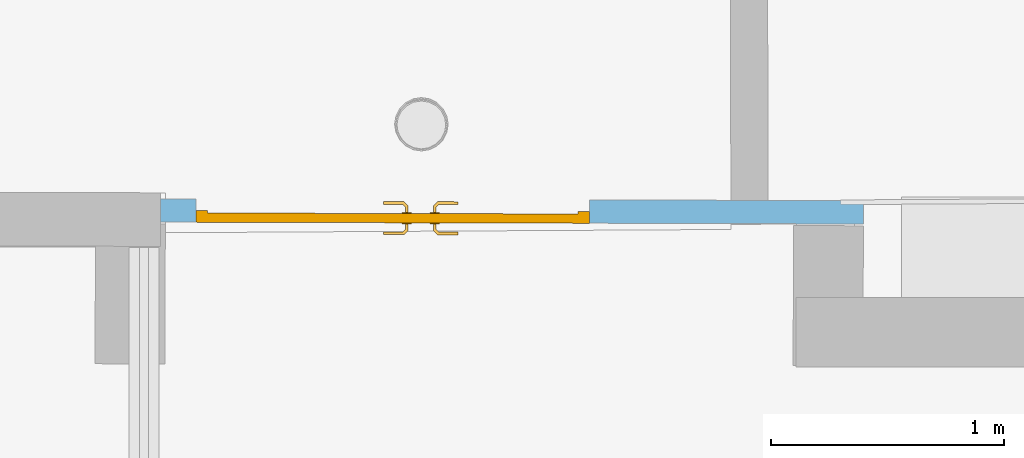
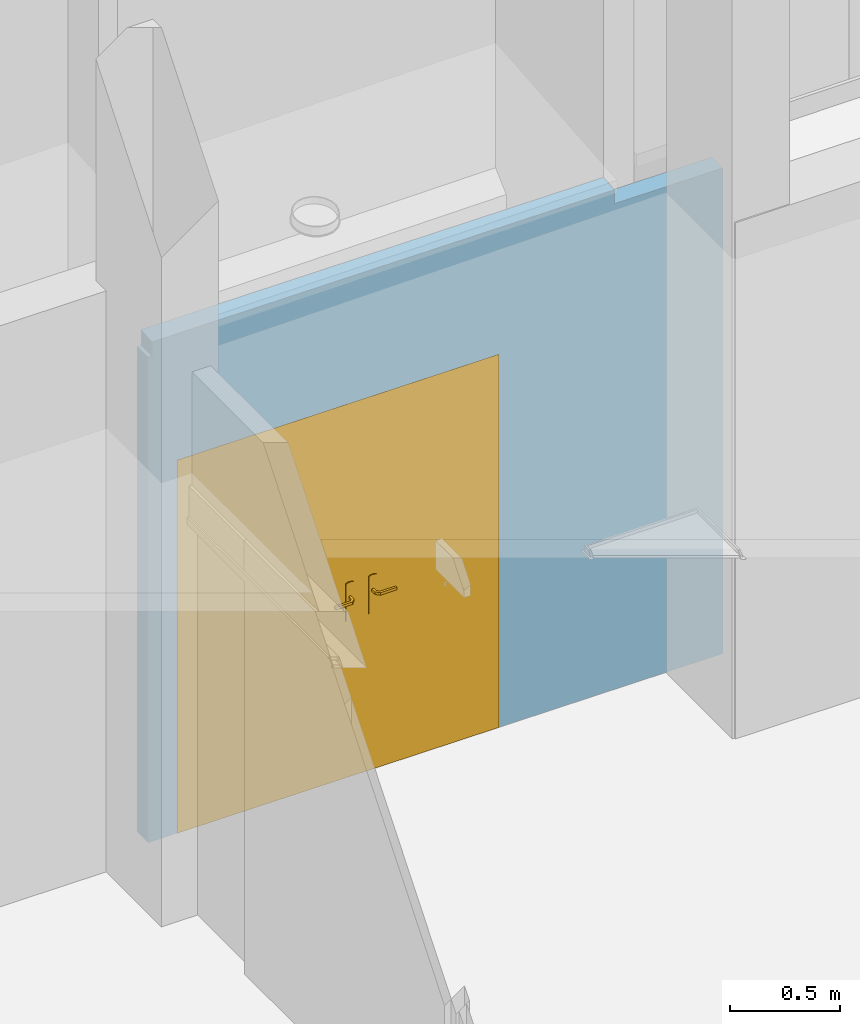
# One storey, part 37 of 128: 1 door, 1 opening, plus 1 element that does not belong to this part.
"""IFC2X3 building model written with IfcOpenShell, lengths in metres."""

from ifc_helpers import new_model, entity, si_unit, converted_unit, derived_unit, direction, frame, frame_2d, origin, place, context, subcontext, project, spatial, polyline, rectangle, extrude, clip, bounded_halfspace, faceted_brep, source, transform, mapped, material, layer, layer_set, layer_usage, type_object, type_shapes, element, fill, save


model = new_model("IFC2X3")

# Units and contexts
model_context = context("Model", 3, precision=1e-05, world=origin(), true_north=direction((6.123031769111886e-17, 1.0)))
body_context = subcontext(model_context, "Body", "Model", "MODEL_VIEW")
ifc_project = project(units=[si_unit("LENGTHUNIT", "METRE"), si_unit("AREAUNIT", "SQUARE_METRE"), converted_unit("PLANEANGLEUNIT", "DEGREE", entity("IfcPlaneAngleMeasure", 0.017453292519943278), si_unit("PLANEANGLEUNIT", "RADIAN"), dimensions=[0, 0, 0, 0, 0, 0, 0]), derived_unit("THERMALTRANSMITTANCEUNIT", [(si_unit("MASSUNIT", "GRAM", prefix="KILO"), 1), (si_unit("THERMODYNAMICTEMPERATUREUNIT", "KELVIN"), -1), (si_unit("TIMEUNIT", "SECOND"), -3)])], contexts=[model_context])

# Site, building, storey
site_placement = place(None, origin())
site = spatial("IfcSite", under=ifc_project, at=site_placement, Name="Default", CompositionType="ELEMENT")
building_placement = place(site_placement, origin())
building = spatial("IfcBuilding", under=site, at=building_placement, CompositionType="ELEMENT")
storey_placement = place(building_placement, origin())
storey = spatial("IfcBuildingStorey", under=building, at=storey_placement, Name="00_RDC CAF", CompositionType="ELEMENT", Elevation=2.4982504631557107e-13)

# Wall, opening, door
ifc_material_1 = material(Name="ARC - Cloison")
ifc_layer = layer(ifc_material_1, 0.1)
ifc_layer_set = layer_set([ifc_layer], Name="Mur de base:Cl_Platre_100mm")
ifc_layer_usage = layer_usage(ifc_layer_set, "AXIS2", "NEGATIVE", 0.05)
wall_type = type_object("IfcWallType", Name="Mur de base:Cl_Platre_100mm", PredefinedType="STANDARD", material=ifc_layer_set)
wall_placement = place(storey_placement, frame((12.877483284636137, 130.1637382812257, 0.0), z_axis=(0.0, 0.0, 1.0), x_axis=(0.9999964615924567, -0.0026602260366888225, 0.0)))
wall = element("IfcWallStandardCase", 1, at=wall_placement, inside=storey, type_object=wall_type, material=ifc_layer_usage, Name="Mur de base:Cl_Platre_100mm", ObjectType="Mur de base:Cl_Platre_100mm", context=body_context, shape_type="Clipping", body=[
    clip(clip(clip(clip(clip(extrude(rectangle(XDim=0.10000000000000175, YDim=3.017920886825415, at=frame_2d((1.5089604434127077, -9.46465128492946e-15), x_axis=(0.0, 1.0))), origin(), (0.0, 0.0, 1.0), 2.786642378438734), bounded_halfspace(frame((2.979851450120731, -0.05000000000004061, 2.700000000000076), z_axis=(0.0, 0.0, -1.0), x_axis=(-0.9999964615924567, -0.002660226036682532, 0.0)), True, frame((2.979851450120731, -0.05000000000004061, 2.700000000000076)), polyline([(0.0, 0.0), (0.03806943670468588, 0.0), (0.0380694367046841, 0.10000000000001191), (-0.0002660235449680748, 0.10000000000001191), (0.0, 0.0)]))), bounded_halfspace(frame((0.020280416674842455, -0.05000000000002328, 2.777642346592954), z_axis=(-0.00023845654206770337, 0.08963738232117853, -0.9959744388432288), x_axis=(0.002649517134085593, -0.9959709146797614, -0.0896376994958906)), True, frame((0.020280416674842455, -0.05000000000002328, 2.777642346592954)), polyline([(0.0, 0.0), (2.429058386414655, 0.0), (2.428530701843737, 0.10000000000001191), (-0.0002660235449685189, 0.0999999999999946), (0.0, 0.0)]))), bounded_halfspace(frame((2.979851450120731, -0.05000000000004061, 2.700000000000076), z_axis=(0.0, 0.0, -1.0), x_axis=(-0.9999964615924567, -0.002660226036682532, 0.0)), True, frame((2.979851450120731, -0.05000000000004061, 2.700000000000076)), polyline([(0.0, 0.0), (0.03806943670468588, 0.0), (0.0380694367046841, 0.10000000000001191), (-0.0002660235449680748, 0.10000000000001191), (0.0, 0.0)]))), bounded_halfspace(frame((2.449338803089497, -0.05000000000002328, 2.6999999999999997), z_axis=(0.0, 0.0, 1.0), x_axis=(0.0, 1.0, 0.0)), False, frame((2.449338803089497, -0.05000000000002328, 2.6999999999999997)), polyline([(0.0, 0.0), (0.5305126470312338, 0.0), (0.5302466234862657, 0.0999999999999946), (-0.0005276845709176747, 0.10000000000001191), (0.0, 0.0)]))), bounded_halfspace(frame((0.0, 0.04999999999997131, 2.7), z_axis=(0.0, 0.0, 1.0), x_axis=(0.0, 1.0, 0.0)), False, frame((0.0, 0.04999999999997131, 2.7)), polyline([(0.0, 0.0), (0.0, -0.0999999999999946), (0.02028041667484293, -0.0999999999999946), (0.020014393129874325, 0.0), (0.0, 0.0)]))),
])
opening_placement = place(wall_placement, frame((1.8424932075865, 0.050000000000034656, 0.0)))
opening = element("IfcOpeningElement", 2, at=opening_placement, cuts=wall, Name="P_Tunnel_Tierce:P_Int_Tierce_Pleine_1620x2040mm:1", ObjectType="Opening", context=body_context, shape_type="SweptSolid", body=[
    extrude(rectangle(XDim=2.0749999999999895, YDim=1.6899999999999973, at=frame_2d((1.0374999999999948, 0.845), x_axis=(1.0, 0.0))), frame((0.0, 0.0, 0.0), z_axis=(0.0, -1.0, 0.0), x_axis=(0.0, 0.0, 1.0)), (0.0, 0.0, 1.0), 0.1),
])
ifc_material_2 = material(Name="ARC - M.In - Blanc")
door_style = type_object("IfcDoorStyle", Name="P_Tunnel_Tierce:P_Int_Tierce_Pleine_1620x2040mm", ConstructionType="NOTDEFINED", OperationType="NOTDEFINED", ParameterTakesPrecedence=False, Sizeable=False, material=ifc_material_2)
shared_shape = source(origin(), body_context, "Body", "Brep", [
    faceted_brep([(1.0229747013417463, 0.0450000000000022, 1.0077804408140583), (1.0189999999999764, 0.045000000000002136, 1.0069999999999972), (1.0189999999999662, 0.045000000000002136, 0.9929999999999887), (1.0229747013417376, 0.0450000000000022, 0.9922195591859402), (1.0270252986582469, 0.04500000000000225, 0.9922195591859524), (1.0310000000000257, 0.04500000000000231, 0.9930000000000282), (1.0310000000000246, 0.04500000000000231, 1.006999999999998), (1.0270252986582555, 0.04500000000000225, 1.0077804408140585), (1.0310000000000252, 0.06748520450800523, 0.9930000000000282), (1.0310000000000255, 0.0674852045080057, 1.006999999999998), (1.0270252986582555, 0.06913157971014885, 1.0077804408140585), (1.0408389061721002, 0.08294518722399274, 1.0077804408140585), (1.0391610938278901, 0.086995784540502, 1.0077804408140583), (1.0229747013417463, 0.0708093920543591, 1.0077804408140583), (1.018999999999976, 0.07245576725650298, 1.0069999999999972), (1.0189999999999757, 0.07245576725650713, 0.9929999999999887), (1.0229747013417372, 0.0708093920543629, 0.9922195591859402), (1.0391610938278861, 0.08699578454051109, 0.9922195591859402), (1.0408389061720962, 0.08294518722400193, 0.9922195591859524), (1.0270252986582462, 0.06913157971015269, 0.9922195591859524), (1.0424852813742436, 0.07897048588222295, 0.9930000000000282), (1.042485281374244, 0.07897048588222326, 1.006999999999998), (1.0375147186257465, 0.09097048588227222, 1.0069999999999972), (1.0375147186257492, 0.09097048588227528, 0.9929999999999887), (1.1250457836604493, 0.07897048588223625, 0.9930000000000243), (1.1250457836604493, 0.08294518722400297, 0.9922195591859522), (1.1250457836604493, 0.08699578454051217, 0.99221955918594), (1.1250457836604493, 0.09097048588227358, 0.9929999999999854), (1.1250457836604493, 0.0909704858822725, 1.0069999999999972), (1.1250457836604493, 0.08699578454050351, 1.007780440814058), (1.1250457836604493, 0.08294518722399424, 1.0077804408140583), (1.1250457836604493, 0.07897048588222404, 1.0069999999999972), (1.0837655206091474, 0.07897048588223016, 0.9930000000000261), (1.0837655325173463, 0.07897048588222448, 1.0069999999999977), (1.0829423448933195, 0.08497048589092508, 1.0078786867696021), (1.0774452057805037, 0.09097048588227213, 1.0069999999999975), (1.0774452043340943, 0.09097048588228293, 0.9929999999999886), (1.0829423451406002, 0.08497048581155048, 0.9921213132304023)], [[[0, 1, 2, 3, 4, 5, 6, 7]], [[6, 5, 8, 9]], [[9, 10, 7, 6]], [[10, 11, 12, 13, 0, 7]], [[13, 14, 1, 0]], [[2, 1, 14, 15]], [[15, 16, 3, 2]], [[16, 17, 18, 19, 4, 3]], [[19, 8, 5, 4]], [[9, 8, 20, 21]], [[21, 11, 10, 9]], [[12, 22, 14, 13]], [[15, 14, 22, 23]], [[23, 17, 16, 15]], [[18, 20, 8, 19]], [[24, 25, 26, 27, 28, 29, 30, 31]], [[21, 20, 32, 24, 31, 33]], [[33, 30, 34]], [[35, 34, 29]], [[21, 33, 11]], [[33, 31, 30]], [[28, 35, 29]], [[22, 12, 35]], [[35, 12, 34]], [[12, 11, 34]], [[11, 33, 34]], [[29, 34, 30]], [[22, 35, 28, 27, 36, 23]], [[36, 26, 37]], [[27, 26, 36]], [[17, 23, 36]], [[37, 32, 18]], [[20, 18, 32]], [[32, 25, 24]], [[26, 25, 37]], [[25, 32, 37]], [[17, 36, 37]], [[17, 37, 18]]]),
    faceted_brep([(1.0229747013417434, -0.0049999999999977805, 1.0077804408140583), (1.0270252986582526, -0.004999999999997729, 1.0077804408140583), (1.031000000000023, -0.00499999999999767, 1.006999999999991), (1.0310000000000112, -0.00499999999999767, 0.9930000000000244), (1.0270252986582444, -0.004999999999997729, 0.9922195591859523), (1.0229747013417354, -0.0049999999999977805, 0.9922195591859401), (1.0189999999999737, -0.0049999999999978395, 0.9929999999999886), (1.0189999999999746, -0.0049999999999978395, 1.0069999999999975), (1.0189999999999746, -0.03265095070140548, 1.0069999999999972), (1.0229747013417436, -0.03100457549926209, 1.0077804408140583), (1.0390235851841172, -0.047053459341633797, 1.0077804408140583), (1.0407013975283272, -0.04300286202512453, 1.0077804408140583), (1.0270252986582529, -0.02932676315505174, 1.0077804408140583), (1.031000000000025, -0.027680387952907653, 1.0069999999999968), (1.0310000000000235, -0.027680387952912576, 0.9930000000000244), (1.0270252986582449, -0.029326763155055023, 0.9922195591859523), (1.040701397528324, -0.04300286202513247, 0.9922195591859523), (1.0390235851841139, -0.047053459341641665, 0.9922195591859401), (1.0229747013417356, -0.031004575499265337, 0.9922195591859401), (1.0189999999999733, -0.03265095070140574, 0.9929999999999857), (1.0373772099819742, -0.05102816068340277, 1.0069999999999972), (1.0423477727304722, -0.039028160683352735, 1.0069999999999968), (1.0423477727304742, -0.039028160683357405, 0.9930000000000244), (1.0373772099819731, -0.05102816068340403, 0.9929999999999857), (1.1250186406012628, -0.051028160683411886, 0.9929999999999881), (1.1250186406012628, -0.0470534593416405, 0.9922195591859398), (1.1250186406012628, -0.043002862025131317, 0.992219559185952), (1.1250186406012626, -0.03902816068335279, 0.9930000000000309), (1.1250186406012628, -0.03902816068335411, 1.0069999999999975), (1.1250186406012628, -0.04300286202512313, 1.007780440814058), (1.1250186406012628, -0.047053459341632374, 1.0077804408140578), (1.1250186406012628, -0.05102816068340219, 1.0069999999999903), (1.0773076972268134, -0.05102816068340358, 1.0069999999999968), (1.0828600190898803, -0.04502816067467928, 1.007878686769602), (1.0836832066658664, -0.03902816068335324, 1.0069999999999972), (1.0836832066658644, -0.039028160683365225, 0.9930000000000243), (1.0828600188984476, -0.04502816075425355, 0.9921213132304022), (1.0773077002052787, -0.051028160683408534, 0.992999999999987)], [[[0, 1, 2, 3, 4, 5, 6, 7]], [[8, 9, 0, 7]], [[9, 10, 11, 12, 1, 0]], [[12, 13, 2, 1]], [[3, 2, 13, 14]], [[14, 15, 4, 3]], [[15, 16, 17, 18, 5, 4]], [[18, 19, 6, 5]], [[7, 6, 19, 8]], [[20, 10, 9, 8]], [[11, 21, 13, 12]], [[14, 13, 21, 22]], [[22, 16, 15, 14]], [[17, 23, 19, 18]], [[8, 19, 23, 20]], [[24, 25, 26, 27, 28, 29, 30, 31]], [[32, 30, 33]], [[31, 30, 32]], [[10, 20, 32]], [[33, 34, 11]], [[21, 11, 34]], [[34, 29, 28]], [[30, 29, 33]], [[29, 34, 33]], [[10, 32, 33]], [[10, 33, 11]], [[22, 21, 34, 28, 27, 35]], [[35, 26, 36]], [[37, 36, 25]], [[22, 35, 16]], [[35, 27, 26]], [[24, 37, 25]], [[23, 17, 37]], [[37, 17, 36]], [[17, 16, 36]], [[16, 35, 36]], [[25, 36, 26]], [[20, 23, 37, 24, 31, 32]]]),
    faceted_brep([(1.0353527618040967, 0.04000000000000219, 0.866003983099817), (1.0449999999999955, 0.040000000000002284, 0.8700000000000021), (1.0449999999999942, 0.040000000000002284, 1.0800000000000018), (1.035352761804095, 0.04000000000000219, 1.083996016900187), (1.0249999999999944, 0.040000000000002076, 1.0853589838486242), (1.0146472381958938, 0.04000000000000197, 1.0839960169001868), (1.0049999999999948, 0.040000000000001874, 1.0800000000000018), (1.0049999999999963, 0.040000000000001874, 0.8700000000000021), (1.0146472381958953, 0.04000000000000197, 0.8660039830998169), (1.024999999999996, 0.040000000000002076, 0.8646410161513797), (1.035352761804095, 0.04500000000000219, 1.083996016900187), (1.0449999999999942, 0.04500000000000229, 1.0800000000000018), (1.0449999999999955, 0.04500000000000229, 0.8700000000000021), (1.0353527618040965, 0.04500000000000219, 0.866003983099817), (1.024999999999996, 0.04500000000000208, 0.8646410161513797), (1.0146472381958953, 0.04500000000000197, 0.8660039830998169), (1.0049999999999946, 0.045000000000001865, 0.870000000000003), (1.0049999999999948, 0.045000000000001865, 1.0800000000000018), (1.0146472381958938, 0.04500000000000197, 1.0839960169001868), (1.0249999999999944, 0.04500000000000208, 1.0853589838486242)], [[[0, 1, 2, 3, 4, 5, 6, 7, 8, 9]], [[10, 11, 12, 13, 14, 15, 16, 17, 18, 19]], [[11, 10, 3, 2]], [[3, 10, 19, 4]], [[19, 18, 5, 4]], [[18, 17, 6, 5]], [[7, 6, 17, 16]], [[16, 15, 8, 7]], [[8, 15, 14, 9]], [[14, 13, 0, 9]], [[13, 12, 1, 0]], [[2, 1, 12, 11]]]),
    faceted_brep([(1.035352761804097, -0.004999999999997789, 0.866003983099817), (1.0449999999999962, -0.004999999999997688, 0.8700000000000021), (1.0449999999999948, -0.004999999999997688, 1.0800000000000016), (1.0353527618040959, -0.004999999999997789, 1.0839960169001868), (1.0249999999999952, -0.004999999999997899, 1.0853589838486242), (1.0146472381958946, -0.004999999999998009, 1.083996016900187), (1.0049999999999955, -0.00499999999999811, 1.0800000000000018), (1.0049999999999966, -0.00499999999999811, 0.8700000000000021), (1.0146472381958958, -0.004999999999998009, 0.866003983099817), (1.0249999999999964, -0.004999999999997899, 0.8646410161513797), (1.0353527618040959, 0.0, 1.0839960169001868), (1.0449999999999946, 0.0, 1.0800000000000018), (1.0449999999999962, 0.0, 0.8700000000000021), (1.035352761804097, 0.0, 0.866003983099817), (1.0249999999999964, 0.0, 0.8646410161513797), (1.0146472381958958, 0.0, 0.866003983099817), (1.0049999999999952, 0.0, 0.8700000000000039), (1.0049999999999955, 0.0, 1.0800000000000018), (1.0146472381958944, 0.0, 1.083996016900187), (1.0249999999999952, 0.0, 1.0853589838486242)], [[[0, 1, 2, 3, 4, 5, 6, 7, 8, 9]], [[10, 11, 12, 13, 14, 15, 16, 17, 18, 19]], [[16, 15, 8, 7]], [[8, 15, 14, 9]], [[14, 13, 0, 9]], [[13, 12, 1, 0]], [[2, 1, 12, 11]], [[11, 10, 3, 2]], [[3, 10, 19, 4]], [[19, 18, 5, 4]], [[18, 17, 6, 5]], [[7, 6, 17, 16]]]),
    faceted_brep([(0.9649999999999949, 0.04000000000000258, 2.04), (1.6549999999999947, 0.040000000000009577, 2.04), (1.6549999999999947, 0.040000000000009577, 0.0), (0.9649999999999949, 0.04000000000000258, 0.0), (1.6549999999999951, 0.0, 2.04), (1.6549999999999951, 0.0, 0.0), (0.9649999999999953, 0.0, 0.0), (0.9649999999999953, 0.0, 2.04)], [[[0, 1, 2, 3]], [[2, 1, 4, 5]], [[3, 2, 5, 6]], [[0, 3, 6, 7]], [[7, 6, 5, 4]], [[1, 0, 7, 4]]]),
    faceted_brep([(0.9029747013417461, 0.045000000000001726, 0.9922195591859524), (0.9070252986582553, 0.04500000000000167, 0.9922195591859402), (0.9110000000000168, 0.045000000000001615, 0.9929999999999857), (0.9110000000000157, 0.045000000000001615, 1.0069999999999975), (0.9070252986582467, 0.04500000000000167, 1.0077804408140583), (0.9029747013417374, 0.045000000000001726, 1.0077804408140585), (0.8989999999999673, 0.04500000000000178, 1.0069999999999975), (0.8989999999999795, 0.04500000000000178, 0.9930000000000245), (0.8989999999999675, 0.06748520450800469, 1.0069999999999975), (0.8989999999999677, 0.06748520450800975, 0.9930000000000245), (0.9029747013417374, 0.06913157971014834, 1.0077804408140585), (0.9070252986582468, 0.07080939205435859, 1.0077804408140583), (0.8908389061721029, 0.08699578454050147, 1.0077804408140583), (0.8891610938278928, 0.08294518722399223, 1.0077804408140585), (0.9110000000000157, 0.07245576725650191, 1.0069999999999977), (0.9110000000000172, 0.07245576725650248, 0.9929999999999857), (0.9070252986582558, 0.07080939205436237, 0.9922195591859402), (0.9029747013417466, 0.06913157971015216, 0.9922195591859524), (0.8891610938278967, 0.08294518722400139, 0.9922195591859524), (0.8908389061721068, 0.08699578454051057, 0.9922195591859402), (0.8875147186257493, 0.0789704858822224, 1.0069999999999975), (0.8875147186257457, 0.078970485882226, 0.9930000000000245), (0.8924852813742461, 0.09097048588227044, 1.0069999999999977), (0.8924852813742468, 0.09097048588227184, 0.9929999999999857), (0.8049542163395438, 0.08294518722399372, 1.0077804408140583), (0.8049542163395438, 0.08699578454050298, 1.007780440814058), (0.8049542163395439, 0.09097048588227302, 1.006999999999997), (0.8049542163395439, 0.09097048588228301, 0.9929999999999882), (0.8049542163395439, 0.08699578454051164, 0.99221955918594), (0.8049542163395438, 0.08294518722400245, 0.9922195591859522), (0.8049542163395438, 0.07897048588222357, 0.993000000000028), (0.8049542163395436, 0.0789704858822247, 1.0069999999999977), (0.8462344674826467, 0.07897048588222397, 1.0069999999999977), (0.8462344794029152, 0.07897048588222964, 0.9930000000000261), (0.8470576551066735, 0.08497048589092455, 1.0078786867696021), (0.8525547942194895, 0.09097048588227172, 1.0069999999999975), (0.8525547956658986, 0.09097048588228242, 0.9929999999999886), (0.8470576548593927, 0.08497048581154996, 0.9921213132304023)], [[[0, 1, 2, 3, 4, 5, 6, 7]], [[8, 9, 7, 6]], [[5, 10, 8, 6]], [[5, 4, 11, 12, 13, 10]], [[3, 14, 11, 4]], [[14, 3, 2, 15]], [[2, 1, 16, 15]], [[1, 0, 17, 18, 19, 16]], [[0, 7, 9, 17]], [[20, 21, 9, 8]], [[8, 10, 13, 20]], [[14, 22, 12, 11]], [[23, 22, 14, 15]], [[15, 16, 19, 23]], [[17, 9, 21, 18]], [[24, 25, 26, 27, 28, 29, 30, 31]], [[21, 20, 32, 31, 30, 33]], [[34, 24, 32]], [[25, 34, 35]], [[13, 32, 20]], [[24, 31, 32]], [[25, 35, 26]], [[35, 12, 22]], [[34, 12, 35]], [[34, 13, 12]], [[34, 32, 13]], [[24, 34, 25]], [[22, 23, 36, 27, 26, 35]], [[37, 28, 36]], [[36, 28, 27]], [[36, 23, 19]], [[18, 33, 37]], [[33, 18, 21]], [[30, 29, 33]], [[37, 29, 28]], [[37, 33, 29]], [[37, 36, 19]], [[18, 37, 19]]]),
    faceted_brep([(0.9029747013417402, -0.004999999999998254, 1.0077804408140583), (0.9070252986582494, -0.004999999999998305, 1.0077804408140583), (0.9110000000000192, -0.004999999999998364, 1.0069999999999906), (0.9110000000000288, -0.004999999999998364, 0.9929999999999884), (0.9070252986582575, -0.004999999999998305, 0.9922195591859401), (0.9029747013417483, -0.004999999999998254, 0.9922195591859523), (0.8989999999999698, -0.004999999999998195, 0.9930000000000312), (0.898999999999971, -0.004999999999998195, 1.006999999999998), (0.9070252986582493, -0.031004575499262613, 1.0077804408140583), (0.9110000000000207, -0.032650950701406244, 1.0069999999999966), (0.9029747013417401, -0.029326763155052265, 1.0077804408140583), (0.8892986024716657, -0.04300286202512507, 1.0077804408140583), (0.8909764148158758, -0.04705345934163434, 1.0077804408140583), (0.898999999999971, -0.027680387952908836, 1.006999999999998), (0.8989999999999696, -0.027680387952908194, 0.9930000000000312), (0.9029747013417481, -0.029326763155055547, 0.9922195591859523), (0.9070252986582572, -0.03100457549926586, 0.9922195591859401), (0.8909764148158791, -0.04705345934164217, 0.9922195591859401), (0.889298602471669, -0.043002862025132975, 0.9922195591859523), (0.9110000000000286, -0.03265095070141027, 0.9929999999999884), (0.8926227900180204, -0.0510281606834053, 1.0069999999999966), (0.8876522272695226, -0.03902816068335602, 1.006999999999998), (0.8876522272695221, -0.03902816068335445, 0.9930000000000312), (0.8926227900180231, -0.05102816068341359, 0.9929999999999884), (0.8049813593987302, -0.05102816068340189, 1.0069999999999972), (0.8049813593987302, -0.047053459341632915, 1.0077804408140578), (0.8049813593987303, -0.04300286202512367, 1.007780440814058), (0.8049813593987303, -0.0390281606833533, 1.0069999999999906), (0.8049813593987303, -0.039028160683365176, 0.9930000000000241), (0.8049813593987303, -0.04300286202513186, 0.992219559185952), (0.8049813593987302, -0.04705345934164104, 0.9922195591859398), (0.8049813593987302, -0.05102816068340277, 0.9929999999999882), (0.8471399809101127, -0.04502816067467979, 1.007878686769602), (0.852692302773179, -0.05102816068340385, 1.0069999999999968), (0.8463167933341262, -0.039028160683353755, 1.0069999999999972), (0.8463167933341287, -0.03902816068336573, 0.9930000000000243), (0.8471399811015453, -0.04502816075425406, 0.9921213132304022), (0.8526923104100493, -0.05102816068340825, 0.9929999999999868)], [[[0, 1, 2, 3, 4, 5, 6, 7]], [[2, 1, 8, 9]], [[1, 0, 10, 11, 12, 8]], [[0, 7, 13, 10]], [[14, 13, 7, 6]], [[5, 15, 14, 6]], [[5, 4, 16, 17, 18, 15]], [[3, 19, 16, 4]], [[9, 19, 3, 2]], [[9, 8, 12, 20]], [[10, 13, 21, 11]], [[22, 21, 13, 14]], [[14, 15, 18, 22]], [[16, 19, 23, 17]], [[20, 23, 19, 9]], [[24, 25, 26, 27, 28, 29, 30, 31]], [[32, 25, 33]], [[33, 25, 24]], [[33, 20, 12]], [[11, 34, 32]], [[34, 11, 21]], [[27, 26, 34]], [[32, 26, 25]], [[32, 34, 26]], [[32, 33, 12]], [[11, 32, 12]], [[21, 22, 35, 28, 27, 34]], [[36, 29, 35]], [[30, 36, 37]], [[18, 35, 22]], [[29, 28, 35]], [[30, 37, 31]], [[37, 17, 23]], [[36, 17, 37]], [[36, 18, 17]], [[36, 35, 18]], [[29, 36, 30]], [[23, 20, 33, 24, 31, 37]]]),
    faceted_brep([(0.9249999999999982, 0.04000000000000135, 0.870000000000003), (0.924999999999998, 0.04000000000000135, 1.0800000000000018), (0.9153527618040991, 0.04000000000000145, 1.0839960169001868), (0.9049999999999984, 0.04000000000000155, 1.0853589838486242), (0.8946472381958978, 0.04000000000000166, 1.083996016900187), (0.8849999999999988, 0.04000000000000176, 1.0800000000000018), (0.8849999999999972, 0.04000000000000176, 0.8700000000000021), (0.8946472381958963, 0.04000000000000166, 0.866003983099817), (0.9049999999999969, 0.04000000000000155, 0.8646410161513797), (0.9153527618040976, 0.04000000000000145, 0.8660039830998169), (0.9049999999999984, 0.04500000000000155, 1.0853589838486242), (0.9153527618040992, 0.04500000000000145, 1.0839960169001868), (0.9249999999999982, 0.045000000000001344, 1.0800000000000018), (0.9249999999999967, 0.045000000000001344, 0.8700000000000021), (0.9153527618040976, 0.04500000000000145, 0.8660039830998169), (0.904999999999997, 0.04500000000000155, 0.8646410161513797), (0.8946472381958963, 0.045000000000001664, 0.866003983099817), (0.8849999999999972, 0.04500000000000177, 0.8700000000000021), (0.8849999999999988, 0.04500000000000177, 1.0800000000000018), (0.8946472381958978, 0.045000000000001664, 1.083996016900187)], [[[0, 1, 2, 3, 4, 5, 6, 7, 8, 9]], [[10, 11, 12, 13, 14, 15, 16, 17, 18, 19]], [[4, 19, 18, 5]], [[3, 10, 19, 4]], [[2, 11, 10, 3]], [[2, 1, 12, 11]], [[13, 12, 1, 0]], [[9, 14, 13, 0]], [[8, 15, 14, 9]], [[7, 16, 15, 8]], [[7, 6, 17, 16]], [[17, 6, 5, 18]]]),
    faceted_brep([(0.9249999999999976, -0.004999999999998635, 0.8700000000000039), (0.9249999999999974, -0.004999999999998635, 1.0800000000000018), (0.9153527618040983, -0.004999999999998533, 1.083996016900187), (0.9049999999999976, -0.004999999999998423, 1.0853589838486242), (0.894647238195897, -0.004999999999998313, 1.0839960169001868), (0.8849999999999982, -0.004999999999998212, 1.0800000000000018), (0.8849999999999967, -0.004999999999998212, 0.8700000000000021), (0.8946472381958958, -0.004999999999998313, 0.866003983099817), (0.9049999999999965, -0.004999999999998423, 0.8646410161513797), (0.9153527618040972, -0.004999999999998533, 0.866003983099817), (0.9249999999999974, 0.0, 1.0800000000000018), (0.9249999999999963, 0.0, 0.8700000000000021), (0.9153527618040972, 0.0, 0.866003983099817), (0.9049999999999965, 0.0, 0.8646410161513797), (0.8946472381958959, 0.0, 0.866003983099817), (0.8849999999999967, 0.0, 0.8700000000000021), (0.8849999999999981, 0.0, 1.0800000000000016), (0.8946472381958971, 0.0, 1.0839960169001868), (0.9049999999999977, 0.0, 1.0853589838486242), (0.9153527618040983, 0.0, 1.083996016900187)], [[[0, 1, 2, 3, 4, 5, 6, 7, 8, 9]], [[10, 11, 12, 13, 14, 15, 16, 17, 18, 19]], [[9, 12, 11, 0]], [[8, 13, 12, 9]], [[7, 14, 13, 8]], [[7, 6, 15, 14]], [[15, 6, 5, 16]], [[4, 17, 16, 5]], [[3, 18, 17, 4]], [[2, 19, 18, 3]], [[2, 1, 10, 19]], [[11, 10, 1, 0]]]),
    faceted_brep([(0.964999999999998, 0.040000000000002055, 2.04), (0.964999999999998, 0.040000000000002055, 0.0), (0.034999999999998, 0.04000000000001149, 0.0), (0.034999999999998, 0.04000000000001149, 2.04), (0.034999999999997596, 0.0, 0.0), (0.034999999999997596, 0.0, 2.04), (0.9649999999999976, 0.0, 0.0), (0.9649999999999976, 0.0, 2.04)], [[[0, 1, 2, 3]], [[2, 4, 5, 3]], [[1, 6, 4, 2]], [[0, 7, 6, 1]], [[7, 5, 4, 6]], [[3, 5, 7, 0]]]),
    faceted_brep([(0.0, 0.05000000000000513, 0.0), (0.049999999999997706, 0.050000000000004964, 0.0), (0.049999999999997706, 0.04000000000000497, 0.0), (0.034999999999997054, 0.04000000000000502, 0.0), (0.034999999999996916, 0.0, 0.0), (0.0, 0.0, 0.0), (0.0, 0.05000000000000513, 2.0749999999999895), (1.6899999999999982, 0.0499999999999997, 2.0749999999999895), (1.6899999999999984, 0.049999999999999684, 0.0), (1.6400000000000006, 0.04999999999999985, 0.0), (1.6400000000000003, 0.04999999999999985, 2.024999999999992), (0.049999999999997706, 0.050000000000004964, 2.024999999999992), (0.049999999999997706, 0.04000000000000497, 2.024999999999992), (1.6400000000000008, 0.03999999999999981, 2.024999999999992), (1.6400000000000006, 0.03999999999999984, 0.0), (1.6550000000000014, 0.03999999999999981, 0.0), (1.6550000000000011, 0.03999999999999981, 2.0399999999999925), (0.034999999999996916, 0.040000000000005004, 2.0399999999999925), (0.034999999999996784, 0.0, 2.0399999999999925), (1.6550000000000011, 0.0, 2.0399999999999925), (1.655000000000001, 0.0, 0.0), (1.6899999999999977, 0.0, 0.0), (1.6899999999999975, 0.0, 2.0749999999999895), (0.0, 0.0, 2.0749999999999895)], [[[0, 1, 2, 3, 4, 5]], [[1, 0, 6, 7, 8, 9, 10, 11]], [[2, 1, 11, 12]], [[3, 2, 12, 13, 14, 15, 16, 17]], [[4, 3, 17, 18]], [[5, 4, 18, 19, 20, 21, 22, 23]], [[0, 5, 23, 6]], [[7, 22, 21, 8]], [[8, 21, 20, 15, 14, 9]], [[13, 10, 9, 14]], [[19, 16, 15, 20]], [[12, 11, 10, 13]], [[18, 17, 16, 19]], [[6, 23, 22, 7]]]),
])
type_shapes(door_style, [shared_shape])
door_placement = place(opening_placement, frame((-1.6901335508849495, -0.10040548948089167, 0.0)))
door = element("IfcDoor", 3, at=door_placement, inside=storey, type_object=door_style, material=ifc_material_2, Name="P_Tunnel_Tierce:P_Int_Tierce_Pleine_1620x2040mm", ObjectType="P_Tunnel_Tierce:P_Int_Tierce_Pleine_1620x2040mm", OverallHeight=2.0749999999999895, OverallWidth=1.6899999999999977, context=body_context, shape_type="MappedRepresentation", body=[
    mapped(shared_shape, transform((0.0, 0.0, 0.0), scale=1.0)),
])
fill(opening, door)

save(model, "model.ifc")
